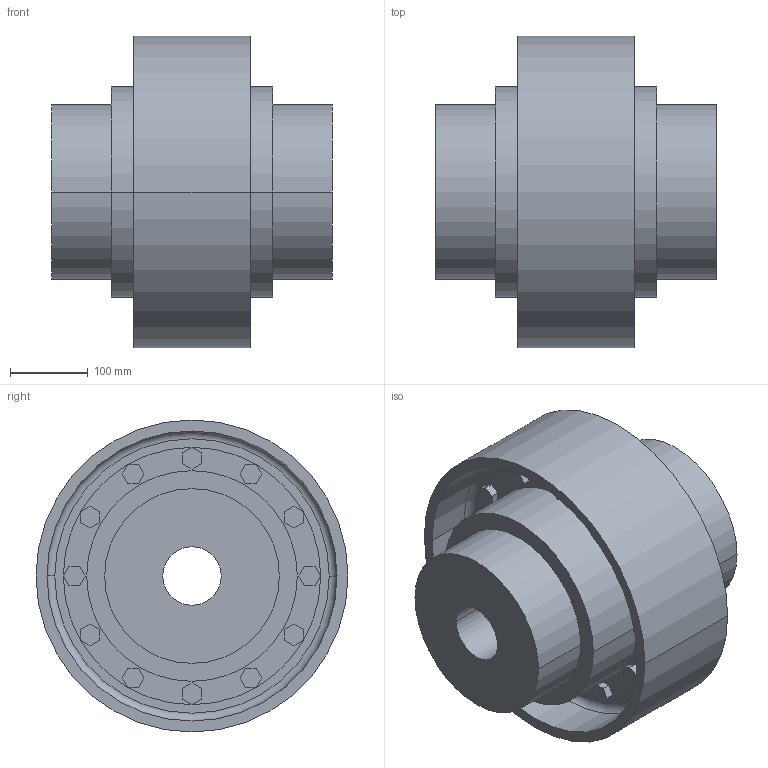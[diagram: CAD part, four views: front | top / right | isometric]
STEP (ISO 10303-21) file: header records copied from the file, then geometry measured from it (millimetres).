
FILE_DESCRIPTION((''),'2;1');
FILE_NAME('A19109800-0_ASM','2018-11-12T',('AB_Roschiwal'),('RENK AG'),'PRO/ENGINEER BY PARAMETRIC TECHNOLOGY CORPORATION, 2015440','PRO/ENGINEER BY PARAMETRIC TECHNOLOGY CORPORATION, 2015440','');
FILE_SCHEMA(('CONFIG_CONTROL_DESIGN'));
Length unit declared in the file: millimetre
Products named in the file (4): LBKD140_GEHAEUSE; LBKD140_NABE; LBKD140_BREMSSCHEIBE; A19109800-0_ASM
Assembly tree (4 placements, depth 2):
  A19109800-0_ASM
    LBKD140_GEHAEUSE
    LBKD140_NABE  x2
    LBKD140_BREMSSCHEIBE
Bounding box: 360 x 400 x 400 mm (x, y, z)
Volume: 19464597.3 mm3; surface area: 1527455.6 mm2
Topology: 4 solids, 4 shells, 292 faces, 704 edges, 468 vertices
Faces by surface type: plane 200, cylinder 88, torus 4
Entity records: 8356 total; most frequent: DIRECTION 1424, CARTESIAN_POINT 1420, ORIENTED_EDGE 1360, EDGE_CURVE 680, VECTOR 512, LINE 512, AXIS2_PLACEMENT_3D 456, VERTEX_POINT 452
